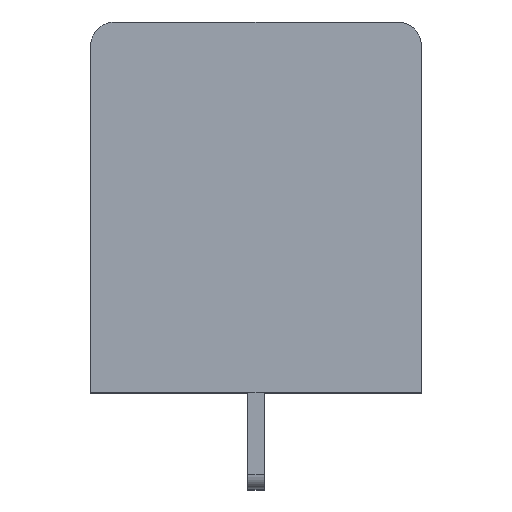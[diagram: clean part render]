
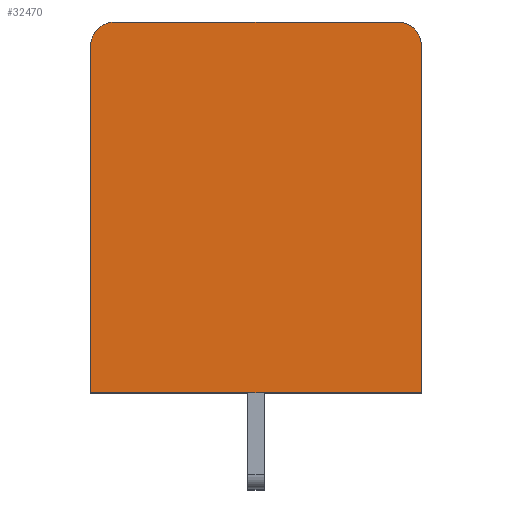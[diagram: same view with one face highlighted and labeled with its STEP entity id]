
A CAD part, top view. The second image highlights one B-rep face of the part: STEP entity #32470.
In plain terms, the highlighted planar face has unit normal (0, 0.013, 1).
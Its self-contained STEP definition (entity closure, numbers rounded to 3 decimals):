
#10457=CARTESIAN_POINT('',(15.3,18.5,
-9.748));
#10458=CARTESIAN_POINT('',(15.353,18.5,
-9.748));
#10459=CARTESIAN_POINT('',(15.457,18.493,
-9.748));
#10460=CARTESIAN_POINT('',(15.611,18.462,
-9.748));
#10461=CARTESIAN_POINT('',(15.761,18.412,
-9.747));
#10462=CARTESIAN_POINT('',(15.902,18.342,
-9.746));
#10463=CARTESIAN_POINT('',(16.033,18.255,
-9.745));
#10464=CARTESIAN_POINT('',(16.151,18.151,
-9.743));
#10465=CARTESIAN_POINT('',(16.255,18.033,
-9.742));
#10466=CARTESIAN_POINT('',(16.342,17.902,
-9.74));
#10467=CARTESIAN_POINT('',(16.412,17.761,
-9.738));
#10468=CARTESIAN_POINT('',(16.462,17.612,
-9.736));
#10469=CARTESIAN_POINT('',(16.493,17.457,
-9.734));
#10470=CARTESIAN_POINT('',(16.5,17.353,
-9.733));
#10471=CARTESIAN_POINT('',(16.5,17.3,
-9.732));
#10497=DIRECTION('',(0.,-1.,0.013));
#10498=VECTOR('',#10497,17.302);
#10499=CARTESIAN_POINT('',(16.5,17.3,
-9.732));
#10500=LINE('',#10499,#10498);
#10505=DIRECTION('',(-1.,0.,0.));
#10506=VECTOR('',#10505,16.5);
#10507=CARTESIAN_POINT('',(16.5,0.,-9.5));
#10508=LINE('',#10507,#10506);
#10517=DIRECTION('',(-1.,0.,0.));
#10518=VECTOR('',#10517,14.1);
#10519=CARTESIAN_POINT('',(15.3,18.5,
-9.748));
#10520=LINE('',#10519,#10518);
#10521=DIRECTION('',(0.,1.,-0.013));
#10522=VECTOR('',#10521,17.302);
#10523=CARTESIAN_POINT('',(0.,0.,-9.5));
#10524=LINE('',#10523,#10522);
#10533=CARTESIAN_POINT('',(0.,17.3,-9.732));
#10534=CARTESIAN_POINT('',(0.,17.4,-9.733));
#10535=CARTESIAN_POINT('',(0.024,17.576,
-9.736));
#10536=CARTESIAN_POINT('',(0.127,17.873,
-9.74));
#10537=CARTESIAN_POINT('',(0.335,18.165,
-9.744));
#10538=CARTESIAN_POINT('',(0.627,18.373,
-9.746));
#10539=CARTESIAN_POINT('',(0.924,18.476,
-9.748));
#10540=CARTESIAN_POINT('',(1.1,18.5,-9.748));
#10541=CARTESIAN_POINT('',(1.2,18.5,-9.748));
#15803=CARTESIAN_POINT('',(15.3,18.5,
-9.748));
#15804=CARTESIAN_POINT('',(1.2,18.5,-9.748));
#15805=VERTEX_POINT('',#15803);
#15806=VERTEX_POINT('',#15804);
#15807=VERTEX_POINT('',#10533);
#15808=VERTEX_POINT('',#10471);
#15809=CARTESIAN_POINT('',(16.5,0.,-9.5));
#15810=VERTEX_POINT('',#15809);
#15811=CARTESIAN_POINT('',(0.,0.,-9.5));
#15812=VERTEX_POINT('',#15811);
#32454=CARTESIAN_POINT('',(-29.6,18.5,-9.748));
#32455=DIRECTION('',(0.,-0.013,-1.));
#32456=DIRECTION('',(0.,-1.,0.013));
#32457=AXIS2_PLACEMENT_3D('',#32454,#32455,#32456);
#32458=PLANE('',#32457);
#32460=ORIENTED_EDGE('',*,*,#32459,.T.);
#32462=ORIENTED_EDGE('',*,*,#32461,.T.);
#32464=ORIENTED_EDGE('',*,*,#32463,.F.);
#32465=ORIENTED_EDGE('',*,*,#32418,.T.);
#32466=ORIENTED_EDGE('',*,*,#32433,.T.);
#32467=ORIENTED_EDGE('',*,*,#32445,.T.);
#32468=EDGE_LOOP('',(#32460,#32462,#32464,#32465,#32466,#32467));
#32469=FACE_OUTER_BOUND('',#32468,.F.);
#32470=ADVANCED_FACE('',(#32469),#32458,.F.);
#10472=B_SPLINE_CURVE_WITH_KNOTS('',3,(#10457,#10458,#10459,#10460,#10461,
#10462,#10463,#10464,#10465,#10466,#10467,#10468,#10469,#10470,#10471),
.UNSPECIFIED.,.F.,.F.,(4,1,1,1,1,1,1,1,1,1,1,1,4),(0.,0.083,
0.167,0.25,0.333,0.417,0.5,
0.583,0.667,0.75,0.833,0.917,
1.),.UNSPECIFIED.);
#10542=B_SPLINE_CURVE_WITH_KNOTS('',3,(#10533,#10534,#10535,#10536,#10537,
#10538,#10539,#10540,#10541),.UNSPECIFIED.,.F.,.F.,(4,1,1,1,1,1,4),(0.,
0.125,0.25,0.5,0.75,0.875,1.),.UNSPECIFIED.);
#32418=EDGE_CURVE('',#15805,#15808,#10472,.T.);
#32433=EDGE_CURVE('',#15808,#15810,#10500,.T.);
#32445=EDGE_CURVE('',#15810,#15812,#10508,.T.);
#32459=EDGE_CURVE('',#15812,#15807,#10524,.T.);
#32461=EDGE_CURVE('',#15807,#15806,#10542,.T.);
#32463=EDGE_CURVE('',#15805,#15806,#10520,.T.);
